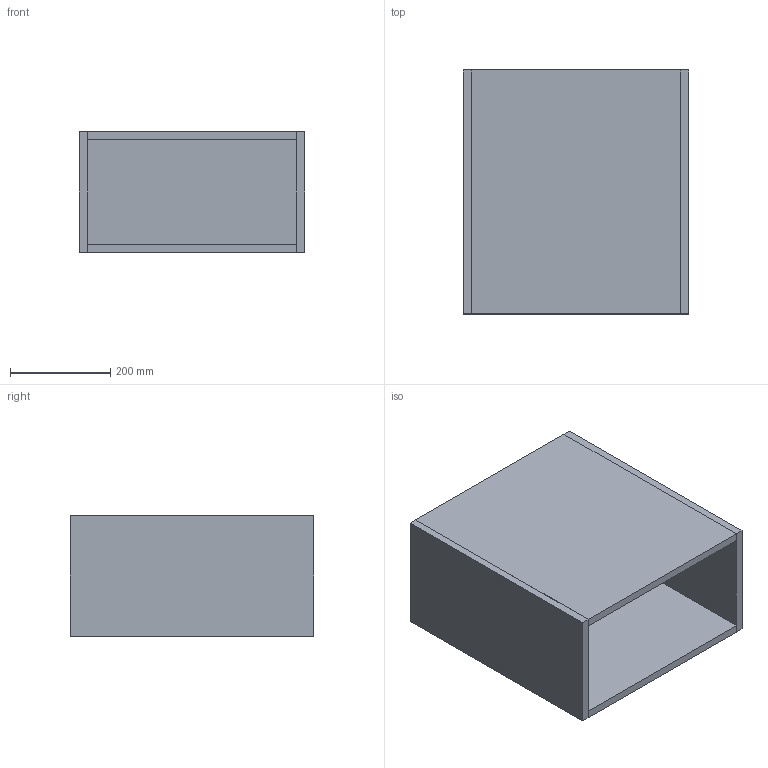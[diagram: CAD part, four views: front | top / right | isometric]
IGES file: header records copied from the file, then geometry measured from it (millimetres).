
Start section: Data from Parasolid IGES Translator 19.0.9, Copyright(c) 2006 Siemens PL M Software. All Rights Reserved.
Global section: file name: noorth-SI-H 24 D 51 W 45_8317.igs; native system: By Siemens PLM Incorporated; preprocessor: XPlus GENERIC/IGES 19.0.9; author: Noname; organization: Noname; date: 20200530.121516; units: metre
Bounding box: 450.01 x 486.06 x 240 mm (x, y, z)
Volume: 10481334.3 mm3; surface area: 1560867.6 mm2
Topology: 5 solids, 5 shells, 30 faces, 60 edges, 40 vertices
Faces by surface type: plane 30
